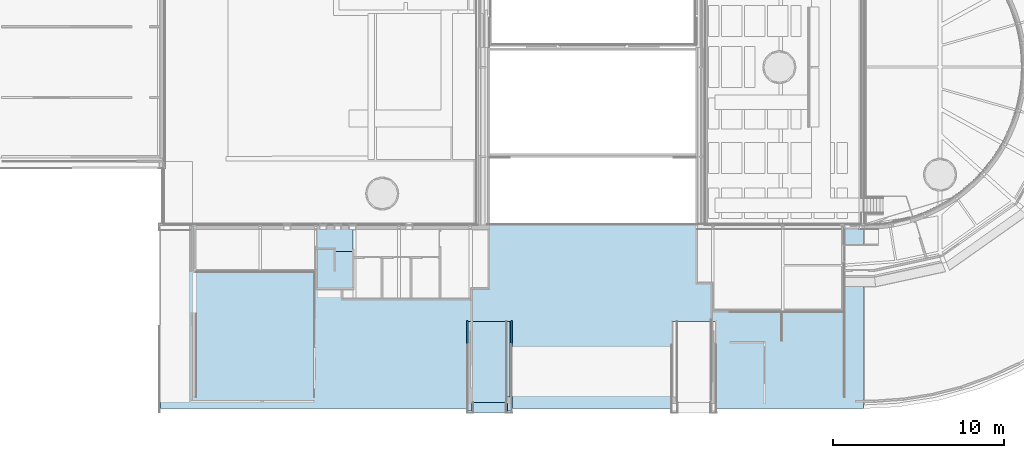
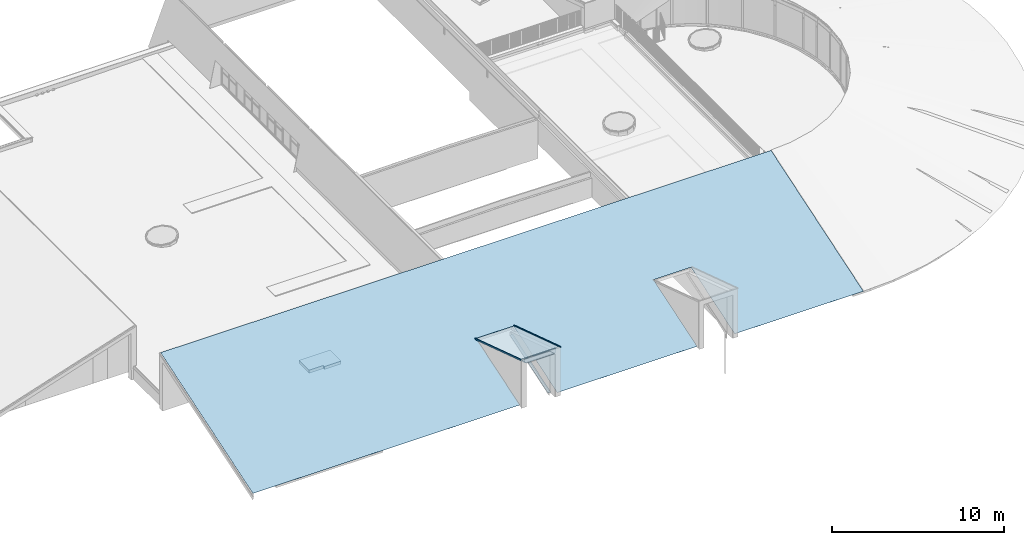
# One storey, part 10 of 66: 8 slabs, 7 elements without a shape of their own.
"""IFC2X3 building model written with IfcOpenShell, lengths in millimetres."""

import ifcopenshell
import ifcopenshell.guid

model = None  # the IFC model being written
_history = None  # IfcOwnerHistory: only IFC2X3 demands one
_inside = {}  # id of a spatial element -> (the spatial element, [elements in it])
_under = {}  # id of a project, library or spatial element -> (it, [spatial elements below it])
_declared = {}  # id of a project -> (the project, [libraries it declares])
_typed = {}  # id of a type object -> (the type object, [elements of that type])
_made_of = {}  # id of a material, layer set ... -> (it, [elements and type objects made of it])


def new_model(schema):
    """Start an empty IFC model of exactly this schema.

    Asked for "IFC4X3", IfcOpenShell would pick the latest addendum, in which some entities
    have other attributes; the version numbers below select the first issue.
    IFC2X3 requires an IfcOwnerHistory on every rooted entity: one is made here for all.
    """
    global model, _history
    if schema == "IFC4X3":
        model = ifcopenshell.file(schema_version=(4, 3, 0, 0))
    else:
        model = ifcopenshell.file(schema=schema)
    _inside.clear()
    _under.clear()
    _declared.clear()
    _typed.clear()
    _made_of.clear()
    _history = None
    if model.schema == "IFC2X3":
        org = make("IfcOrganization", Name="unknown")
        user = make(
            "IfcPersonAndOrganization",
            ThePerson=make("IfcPerson", FamilyName="unknown"),
            TheOrganization=org,
        )
        app = make(
            "IfcApplication",
            ApplicationDeveloper=org,
            Version="unknown",
            ApplicationFullName="unknown",
            ApplicationIdentifier="unknown",
        )
        _history = make(
            "IfcOwnerHistory",
            OwningUser=user,
            OwningApplication=app,
            ChangeAction="ADDED",
            CreationDate=0,
        )
    return model


def make(cls, **values):
    """One entity of the class cls with the attributes given. An attribute that is None is left unset."""
    return model.create_entity(
        cls, **{name: value for name, value in values.items() if value is not None}
    )


def entity(cls, *values):
    """Any entity or typed value of the class cls, its attributes in the order of the schema. None: left unset."""
    e = model.create_entity(cls)
    for i, value in enumerate(values):
        if value is not None:
            e[i] = value
    return e


def rooted(cls, **values):
    """An entity with a GlobalId (a new one), such as an element, a storey or a relation."""
    return make(cls, GlobalId=ifcopenshell.guid.new(), OwnerHistory=_history, **values)


def si_unit(unit_type, name, prefix=None):
    """IfcSIUnit, for example si_unit("LENGTHUNIT", "METRE", prefix="MILLI")."""
    return make("IfcSIUnit", UnitType=unit_type, Prefix=prefix, Name=name)


def converted_unit(unit_type, name, factor, base, dimensions=None, offset=None):
    """IfcConversionBasedUnit, such as the inch: factor (a typed value) times the base unit."""
    return make(
        "IfcConversionBasedUnit"
        if offset is None
        else "IfcConversionBasedUnitWithOffset",
        ConversionOffset=offset,
        Dimensions=None
        if dimensions is None
        else entity("IfcDimensionalExponents", *dimensions),
        UnitType=unit_type,
        Name=name,
        ConversionFactor=make(
            "IfcMeasureWithUnit", ValueComponent=factor, UnitComponent=base
        ),
    )


def derived_unit(unit_type, elements):
    """IfcDerivedUnit: a product of units, each with its exponent."""
    return make(
        "IfcDerivedUnit",
        Elements=[
            make("IfcDerivedUnitElement", Unit=unit, Exponent=power)
            for unit, power in elements
        ],
        UnitType=unit_type,
    )


def assignment(units):
    """IfcUnitAssignment: the units of a project."""
    return None if units is None else make("IfcUnitAssignment", Units=units)


def point(xyz):
    """IfcCartesianPoint."""
    return None if xyz is None else make("IfcCartesianPoint", Coordinates=xyz)


def direction(xyz):
    """IfcDirection."""
    return None if xyz is None else make("IfcDirection", DirectionRatios=xyz)


def frame(location, z_axis=None, x_axis=None):
    """IfcAxis2Placement3D, a coordinate frame: its origin and axes. An axis left out is left unset."""
    return make(
        "IfcAxis2Placement3D",
        Location=point(location),
        Axis=direction(z_axis),
        RefDirection=direction(x_axis),
    )


def frame_2d(location, x_axis=None):
    """IfcAxis2Placement2D, a coordinate frame in the plane: its origin and x axis."""
    return make(
        "IfcAxis2Placement2D", Location=point(location), RefDirection=direction(x_axis)
    )


def origin():
    """The frame at (0, 0, 0) with its axes left unset."""
    return frame((0.0, 0.0, 0.0))


def origin_2d_with_axis():
    """The frame at (0, 0) in the plane with the x axis (1, 0) written out."""
    return frame_2d((0.0, 0.0), x_axis=(1.0, 0.0))


def place(relative_to, where):
    """IfcLocalPlacement: puts the frame where relative to a parent placement (None: the world)."""
    return make(
        "IfcLocalPlacement", PlacementRelTo=relative_to, RelativePlacement=where
    )


def context(
    kind, dimensions, precision=None, world=None, true_north=None, identifier=None
):
    """IfcGeometricRepresentationContext, for example the 3D "Model" context."""
    return make(
        "IfcGeometricRepresentationContext",
        ContextIdentifier=identifier,
        ContextType=kind,
        CoordinateSpaceDimension=dimensions,
        Precision=precision,
        WorldCoordinateSystem=world,
        TrueNorth=true_north,
    )


def subcontext(parent, identifier, kind, view, scale=None):
    """IfcGeometricRepresentationSubContext, for example "Body" below "Model"."""
    return make(
        "IfcGeometricRepresentationSubContext",
        ContextIdentifier=identifier,
        ContextType=kind,
        ParentContext=parent,
        TargetScale=scale,
        TargetView=view,
    )


def project(units=None, contexts=None):
    """IfcProject with its units and contexts."""
    return rooted(
        "IfcProject",
        Name="project",
        RepresentationContexts=contexts,
        UnitsInContext=assignment(units),
    )


def spatial(cls, under=None, at=None, **own):
    """A site, building, storey or space (cls), placed at a placement, below another one or the project."""
    s = rooted(cls, ObjectPlacement=at, **own)
    if under is not None:
        _under.setdefault(under.id(), (under, []))[1].append(s)
    return s


def polyline(points):
    """IfcPolyline through the points."""
    return make("IfcPolyline", Points=[point(p) for p in points])


def circle_curve(where, radius):
    """IfcCircle in the frame where."""
    return make("IfcCircle", Position=where, Radius=radius)


def parameter(value):
    """IfcParameterValue: where a trimmed curve begins or ends, as a parameter of its basis curve."""
    return model.create_entity("IfcParameterValue", value)


def trimmed(basis, trim1, trim2, sense, master):
    """IfcTrimmedCurve: the piece of a basis curve between two trims."""
    return make(
        "IfcTrimmedCurve",
        BasisCurve=basis,
        Trim1=trim1,
        Trim2=trim2,
        SenseAgreement=sense,
        MasterRepresentation=master,
    )


def segment(curve, same_sense, transition):
    """IfcCompositeCurveSegment."""
    return make(
        "IfcCompositeCurveSegment",
        Transition=transition,
        SameSense=same_sense,
        ParentCurve=curve,
    )


def composite_curve(segments, self_intersect=None):
    """IfcCompositeCurve: segments joined end to end."""
    return make("IfcCompositeCurve", Segments=segments, SelfIntersect=self_intersect)


def profile(cls, at=None, kind="AREA", **sizes):
    """A parametric profile (cls). Its sizes go by their IFC names, for example OverallWidth=200.0."""
    return make(cls, ProfileType=kind, Position=at, **sizes)


def rectangle(**sizes):
    """IfcRectangleProfileDef."""
    return profile("IfcRectangleProfileDef", **sizes)


def outline(outer, holes=None, kind="AREA"):
    """IfcArbitraryClosedProfileDef: a profile drawn as a closed curve; with holes, ...WithVoids."""
    if holes is None:
        return make("IfcArbitraryClosedProfileDef", ProfileType=kind, OuterCurve=outer)
    return make(
        "IfcArbitraryProfileDefWithVoids",
        ProfileType=kind,
        OuterCurve=outer,
        InnerCurves=holes,
    )


def extrude(swept, where, along, depth):
    """IfcExtrudedAreaSolid: the profile swept, set in the frame where, extruded along a direction by depth."""
    return make(
        "IfcExtrudedAreaSolid",
        SweptArea=swept,
        Position=where,
        ExtrudedDirection=direction(along),
        Depth=depth,
    )


def shape(context_of_items, identifier, shape_type, items):
    """IfcShapeRepresentation: the items that make up one representation, for example the "Body"."""
    return make(
        "IfcShapeRepresentation",
        ContextOfItems=context_of_items,
        RepresentationIdentifier=identifier,
        RepresentationType=shape_type,
        Items=items,
    )


def material(Name=None, Category=None):
    """IfcMaterial."""
    return make("IfcMaterial", Name=Name, Category=Category)


def material_list(materials):
    """IfcMaterialList."""
    return make("IfcMaterialList", Materials=materials)


def layer(
    of_material, thickness, ventilated=None, Name=None, Category=None, Priority=None
):
    """IfcMaterialLayer: one layer of a wall or slab, of a material (None: an air gap)."""
    return make(
        "IfcMaterialLayer",
        Material=of_material,
        LayerThickness=thickness,
        IsVentilated=ventilated,
        Name=Name,
        Category=Category,
        Priority=Priority,
    )


def layer_set(layers, Name=None):
    """IfcMaterialLayerSet."""
    return make("IfcMaterialLayerSet", MaterialLayers=layers, LayerSetName=Name)


def layer_usage(for_layer_set, set_direction, sense, offset, extent=None):
    """IfcMaterialLayerSetUsage: how a layer set lies in its element."""
    return make(
        "IfcMaterialLayerSetUsage",
        ForLayerSet=for_layer_set,
        LayerSetDirection=set_direction,
        DirectionSense=sense,
        OffsetFromReferenceLine=offset,
        ReferenceExtent=extent,
    )


def made_of(thing, what):
    """Note that an element or type object is made of a material, layer set ...; save() writes the relation."""
    if what is not None:
        _made_of.setdefault(what.id(), (what, []))[1].append(thing)
    return thing


def type_object(cls, material=None, **own):
    """A type object (cls), such as IfcWallType, which elements share."""
    return made_of(rooted(cls, **own), material)


def element(
    cls,
    number,
    at=None,
    inside=None,
    cuts=None,
    type_object=None,
    material=None,
    context=None,
    identifier="Body",
    shape_type=None,
    held_by="IfcProductDefinitionShape",
    body=None,
    shapes=None,
    **own,
):
    """One element of the class cls, such as IfcWall. Its Tag is "e" and its number.

    at: its placement. inside: the storey or other place that contains it. cuts: it is an
    opening in that element (IfcRelVoidsElement). A single representation is given by context,
    identifier, shape_type and body (its items); several are given by shapes. held_by: the class
    of the entity that holds the representations. save() writes the other relations.
    """
    e = rooted(cls, Tag="e%d" % number, ObjectPlacement=at, **own)
    if body is not None:
        shapes = [shape(context, identifier, shape_type, body)]
    if shapes is not None:
        e.Representation = make(held_by, Representations=shapes)
    if inside is not None:
        _inside.setdefault(inside.id(), (inside, []))[1].append(e)
    if cuts is not None:
        rooted(
            "IfcRelVoidsElement", RelatingBuildingElement=cuts, RelatedOpeningElement=e
        )
    if type_object is not None:
        _typed.setdefault(type_object.id(), (type_object, []))[1].append(e)
    return made_of(e, material)


def aggregate(whole, parts):
    """IfcRelAggregates: a whole, such as a stair, and the parts it consists of."""
    return rooted("IfcRelAggregates", RelatingObject=whole, RelatedObjects=parts)


def save(model, path):
    """Write the relations noted so far, then the file.

    IfcRelAggregates (storeys below a building ...), IfcRelContainedInSpatialStructure (elements
    in a storey), IfcRelDefinesByType, IfcRelAssociatesMaterial and IfcRelDeclares: one each for
    every whole, place, type object, material and project.
    """
    for whole, parts in _under.values():
        aggregate(whole, parts)
    for where, things in _inside.values():
        rooted(
            "IfcRelContainedInSpatialStructure",
            RelatedElements=things,
            RelatingStructure=where,
        )
    for kind, things in _typed.values():
        rooted("IfcRelDefinesByType", RelatedObjects=things, RelatingType=kind)
    for what, things in _made_of.values():
        rooted("IfcRelAssociatesMaterial", RelatedObjects=things, RelatingMaterial=what)
    for by, libraries in _declared.values():
        rooted("IfcRelDeclares", RelatingContext=by, RelatedDefinitions=libraries)
    model.write(path)


model = new_model("IFC2X3")

# Units and contexts
model_context = context("Model", 3, precision=0.01, world=origin(), true_north=direction((6.12303176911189e-17, 1.0)))
body_context = subcontext(model_context, "Body", "Model", "MODEL_VIEW")
ifc_project = project(units=[si_unit("LENGTHUNIT", "METRE", prefix="MILLI"), si_unit("AREAUNIT", "SQUARE_METRE"), si_unit("VOLUMEUNIT", "CUBIC_METRE"), converted_unit("PLANEANGLEUNIT", "DEGREE", entity("IfcRatioMeasure", 0.0174532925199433), si_unit("PLANEANGLEUNIT", "RADIAN"), dimensions=[0, 0, 0, 0, 0, 0, 0]), si_unit("MASSUNIT", "GRAM", prefix="KILO"), derived_unit("MASSDENSITYUNIT", [(si_unit("MASSUNIT", "GRAM", prefix="KILO"), 1), (si_unit("LENGTHUNIT", "METRE"), -3)]), derived_unit("MOMENTOFINERTIAUNIT", [(si_unit("LENGTHUNIT", "METRE"), 4)]), si_unit("TIMEUNIT", "SECOND"), si_unit("FREQUENCYUNIT", "HERTZ"), si_unit("THERMODYNAMICTEMPERATUREUNIT", "DEGREE_CELSIUS"), derived_unit("THERMALTRANSMITTANCEUNIT", [(si_unit("MASSUNIT", "GRAM", prefix="KILO"), 1), (si_unit("THERMODYNAMICTEMPERATUREUNIT", "KELVIN"), -1), (si_unit("TIMEUNIT", "SECOND"), -3)]), derived_unit("VOLUMETRICFLOWRATEUNIT", [(si_unit("LENGTHUNIT", "METRE"), 3), (si_unit("TIMEUNIT", "SECOND"), -1)]), si_unit("ELECTRICCURRENTUNIT", "AMPERE"), si_unit("ELECTRICVOLTAGEUNIT", "VOLT"), si_unit("POWERUNIT", "WATT"), si_unit("FORCEUNIT", "NEWTON", prefix="KILO"), si_unit("ILLUMINANCEUNIT", "LUX"), si_unit("LUMINOUSFLUXUNIT", "LUMEN"), si_unit("LUMINOUSINTENSITYUNIT", "CANDELA"), derived_unit("USERDEFINED", [(si_unit("MASSUNIT", "GRAM", prefix="KILO"), -1), (si_unit("LENGTHUNIT", "METRE"), -2), (si_unit("TIMEUNIT", "SECOND"), 3), (si_unit("LUMINOUSFLUXUNIT", "LUMEN"), 1)]), derived_unit("LINEARVELOCITYUNIT", [(si_unit("LENGTHUNIT", "METRE"), 1), (si_unit("TIMEUNIT", "SECOND"), -1)]), si_unit("PRESSUREUNIT", "PASCAL"), derived_unit("USERDEFINED", [(si_unit("LENGTHUNIT", "METRE"), -2), (si_unit("MASSUNIT", "GRAM", prefix="KILO"), 1), (si_unit("TIMEUNIT", "SECOND"), -2)]), derived_unit("LINEARFORCEUNIT", [(si_unit("MASSUNIT", "GRAM", prefix="KILO"), 1), (si_unit("LENGTHUNIT", "METRE"), 1), (si_unit("TIMEUNIT", "SECOND"), -2), (si_unit("LENGTHUNIT", "METRE"), -1)]), derived_unit("PLANARFORCEUNIT", [(si_unit("MASSUNIT", "GRAM", prefix="KILO"), 1), (si_unit("LENGTHUNIT", "METRE"), 1), (si_unit("TIMEUNIT", "SECOND"), -2), (si_unit("LENGTHUNIT", "METRE"), -2)])], contexts=[model_context])

# Site, building, storey
site_placement = place(None, origin())
site = spatial("IfcSite", under=ifc_project, at=site_placement, Name="Default", CompositionType="ELEMENT")
building_placement = place(site_placement, origin())
building = spatial("IfcBuilding", under=site, at=building_placement, Name="-", CompositionType="ELEMENT")
storey_placement = place(building_placement, frame((0.0, 0.0, 3070.0)))
storey = spatial("IfcBuildingStorey", under=building, at=storey_placement, Name="01 eerste verdieping", CompositionType="ELEMENT", Elevation=3070.00000000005)

# Roof, slab
roof_1_placement = place(storey_placement, frame((27709.8462249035, -516.516507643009, 1398.62937019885)))
roof_1 = element("IfcRoof", 1, at=roof_1_placement, inside=storey, Name="Basic Roof:27_Dakelement Rc 6,0m²K/W, aftimmerpakket", ObjectType="Basic Roof:27_Dakelement Rc 6,0m²K/W, aftimmerpakket", ShapeType="NOTDEFINED")
slab_type_1 = type_object("IfcSlabType", Name="Basic Roof:27_Dakelement Rc 6,0m²K/W, aftimmerpakket", PredefinedType="ROOF")
slab_1_placement = place(roof_1_placement, origin())
slab_1 = element("IfcSlab", 2, at=slab_1_placement, type_object=slab_type_1, Name="Basic Roof:27_Dakelement Rc 6,0m²K/W, aftimmerpakket", ObjectType="Basic Roof:27_Dakelement Rc 6,0m²K/W, aftimmerpakket", PredefinedType="NOTDEFINED", context=body_context, shape_type="SweptSolid", body=[
    extrude(rectangle(XDim=2109.65139056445, YDim=5564.20616391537, at=origin_2d_with_axis()), frame((1054.82569528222, 2645.93726510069, 859.71713242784), z_axis=(0.0, 0.309016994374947, 0.951056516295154), x_axis=(1.0, 0.0, 0.0)), (0.0, -0.309016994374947, 0.951056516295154), 314.387205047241),
])
aggregate(roof_1, [slab_1])

# Covering, slab
covering_1_placement = place(storey_placement, frame((9572.49999999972, -305.229644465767, 73.1515311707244)))
covering_1 = element("IfcCovering", 3, at=covering_1_placement, inside=storey, Name="Basic Roof:NLRS_47_Felsdak zink", ObjectType="Basic Roof:NLRS_47_Felsdak zink", PredefinedType="NOTDEFINED")
slab_type_2 = type_object("IfcSlabType", Name="Basic Roof:NLRS_47_Felsdak zink", PredefinedType="ROOF")
slab_2_placement = place(covering_1_placement, origin())
slab_2 = element("IfcSlab", 4, at=slab_2_placement, type_object=slab_type_2, Name="Basic Roof:NLRS_47_Felsdak zink", ObjectType="Basic Roof:NLRS_47_Felsdak zink", PredefinedType="NOTDEFINED", context=body_context, shape_type="SweptSolid", body=[
    extrude(outline(polyline([(20506.4229570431, 5645.73509767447), (-20506.4229570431, 5645.73509767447), (-20506.4229570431, -5645.73509767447), (-2553.57673213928, -5645.73509767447), (-2553.57673213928, -303.194601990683), (-64.5767321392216, -303.194601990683), (-64.5767321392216, -5645.73509767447), (9343.37572061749, -5645.73509767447), (9343.37572061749, -303.194601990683), (11857.8693402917, -303.194601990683), (11857.8693402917, -5645.73509767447), (20506.4229570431, -5645.73509767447), (20506.4229570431, 5645.73509767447)])), frame((20506.4229570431, 5369.41315391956, 1744.62809092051), z_axis=(0.0, -0.309016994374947, 0.951056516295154), x_axis=(1.0, 0.0, 0.0)), (0.0, 0.309016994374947, 0.951056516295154), 1.05146222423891),
])
aggregate(covering_1, [slab_2])

covering_2_placement = place(storey_placement, frame((27491.0667061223, -452.772407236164, 1723.85895276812)))
covering_2 = element("IfcCovering", 5, at=covering_2_placement, inside=storey, Name="Basic Roof:NLRS_47_Felsdak zink", ObjectType="Basic Roof:NLRS_47_Felsdak zink", PredefinedType="NOTDEFINED")
slab_type_3 = type_object("IfcSlabType", Name="Basic Roof:NLRS_47_Felsdak zink", PredefinedType="ROOF")
slab_3_placement = place(covering_2_placement, origin())
slab_3 = element("IfcSlab", 6, at=slab_3_placement, type_object=slab_type_3, Name="Basic Roof:NLRS_47_Felsdak zink", ObjectType="Basic Roof:NLRS_47_Felsdak zink", PredefinedType="NOTDEFINED", context=body_context, shape_type="SweptSolid", body=[
    extrude(rectangle(XDim=2547.55903756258, YDim=5496.94198376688, at=frame_2d((0.0, -6.82121026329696e-13), x_axis=(-1.0, 0.0))), frame((1273.7795187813, 2613.95124667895, 849.32424503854), z_axis=(0.0, 0.309016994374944, 0.951056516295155), x_axis=(1.0, 0.0, 0.0)), (0.0, -0.309016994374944, 0.951056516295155), 1.05146222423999),
])
aggregate(covering_2, [slab_3])

# Slab
ifc_material_1 = material(Name="NLRS_i2_hout naaldhout vuren_gen")
ifc_layer = layer(ifc_material_1, 221.0)
ifc_layer_set = layer_set([ifc_layer], Name="Floor:NLRS_23_FL_Houten balk laag 221mm")
ifc_layer_usage = layer_usage(ifc_layer_set, "AXIS3", "POSITIVE", 0.0)
slab_type_4 = type_object("IfcSlabType", Name="Floor:NLRS_23_FL_Houten balk laag 221mm", PredefinedType="FLOOR", material=ifc_layer_set)
slab_4_placement = place(storey_placement, origin())
element("IfcSlab", 7, at=slab_4_placement, inside=storey, type_object=slab_type_4, material=ifc_layer_usage, Name="Floor:NLRS_23_FL_Houten balk laag 221mm", ObjectType="Floor:NLRS_23_FL_Houten balk laag 221mm", PredefinedType="FLOOR", context=body_context, shape_type="SweptSolid", body=[
    extrude(outline(polyline([(-347.706899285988, -1020.16666666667), (819.051316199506, -1020.16666666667), (819.051316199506, 1072.33333333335), (-471.344416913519, 1072.33333333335), (-471.344416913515, -52.1666666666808), (-347.706899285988, -52.1666666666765), (-347.706899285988, -1020.16666666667)])), frame((19732.8615010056, 9344.57277920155, -18.0), z_axis=(0.0, 0.0, -1.0), x_axis=(0.0, 1.0, 0.0)), (0.0, 0.0, 1.0), 221.0),
])

# Roof, slab
ifc_material_2 = material(Name="AL_Aluminium")
ifc_material_3 = material(Name="AL_31_Naaldhout (vuren)")
ifc_material_4 = material(Name="h7_zink zwart")
ifc_material_list_1 = material_list([ifc_material_2, ifc_material_3, ifc_material_4])
roof_2_placement = place(storey_placement, origin())
roof_2 = element("IfcRoof", 8, at=roof_2_placement, inside=storey, material=ifc_material_list_1, Name="Dakrand zijkant dak4:Dakrand zijkant dak", ObjectType="Dakrand zijkant dak4:Dakrand zijkant dak", ShapeType="NOTDEFINED")
ifc_material_list_2 = material_list([ifc_material_2, ifc_material_3, ifc_material_4])
slab_type_5 = type_object("IfcSlabType", Name="Dakrand zijkant dak4:Dakrand zijkant dak", PredefinedType="ROOF")
slab_5_placement = place(storey_placement, origin())
slab_5 = element("IfcSlab", 9, at=slab_5_placement, type_object=slab_type_5, material=ifc_material_list_2, Name="Dakrand zijkant dak4:Dakrand zijkant dak:1", ObjectType="Dakrand zijkant dak4:Dakrand zijkant dak", PredefinedType="ROOF", context=body_context, shape_type="SweptSolid", body=[
    extrude(outline(composite_curve([segment(polyline([(36.5513412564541, -17.7650850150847), (-36.551341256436, -17.7650850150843)]), True, "CONTINUOUS"), segment(trimmed(circle_curve(frame_2d((-36.551341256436, -15.7650850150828), x_axis=(-1.0, 0.0)), 1.99999999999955), [parameter(359.999999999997)], [parameter(90.0000000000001)], True, "PARAMETER"), False, "CONTINUOUS"), segment(polyline([(-38.551341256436, -15.7650850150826), (-38.5513412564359, 68.3434682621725)]), True, "CONTINUOUS"), segment(polyline([(-38.5513412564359, 68.3434682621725), (-39.5513412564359, 68.3434682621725)]), True, "CONTINUOUS"), segment(polyline([(-39.5513412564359, 68.3434682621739), (-39.551341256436, -15.7650850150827)]), True, "CONTINUOUS"), segment(trimmed(circle_curve(frame_2d((-36.551341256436, -15.7650850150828), x_axis=(-1.0, 0.0)), 2.99999999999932), [parameter(359.999999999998)], [parameter(90.0000000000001)], True, "PARAMETER"), True, "CONTINUOUS"), segment(polyline([(-36.551341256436, -18.7650850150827), (36.5513412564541, -18.7650850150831)]), True, "CONTINUOUS"), segment(trimmed(circle_curve(frame_2d((36.5513412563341, -15.7650850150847), x_axis=(1.0, 0.0)), 2.99999999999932), [parameter(270.000000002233)], [parameter(359.999999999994)], True, "PARAMETER"), True, "CONTINUOUS"), segment(polyline([(39.5513412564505, -15.765085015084), (39.5513412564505, -0.283128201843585)]), True, "CONTINUOUS"), segment(polyline([(39.5513412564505, -0.283128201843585), (38.5513412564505, -0.283128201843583)]), True, "CONTINUOUS"), segment(polyline([(38.5513412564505, -0.283128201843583), (38.5513412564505, -15.765085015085)]), True, "CONTINUOUS"), segment(trimmed(circle_curve(frame_2d((36.5513412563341, -15.7650850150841), x_axis=(1.0, 0.0)), 1.99999999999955), [parameter(270.00000000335)], [parameter(359.999999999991)], True, "PARAMETER"), False, "CONTINUOUS")], self_intersect=False)), frame((30067.0455243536, -291.306566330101, 3381.85709956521), z_axis=(0.0, -0.951056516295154, 0.309016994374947), x_axis=(-1.0, 0.0, 0.0)), (0.0, 0.0, -1.0), 5380.0),
    extrude(rectangle(XDim=37.9999999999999, YDim=5405.0, at=frame_2d((4.54747350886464e-13, -2.02504679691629e-13), x_axis=(0.0, 1.0))), frame((30038.6257436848, 2248.32259370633, 2554.33163566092), z_axis=(1.0, 0.0, 0.0), x_axis=(0.0, -0.951056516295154, 0.309016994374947)), (0.0, 0.0, 1.0), 58.0000000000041),
    extrude(outline(composite_curve([segment(polyline([(-63.3639587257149, -41.6884154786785), (-55.4151697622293, -28.9676940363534)]), True, "CONTINUOUS"), segment(polyline([(-55.4151697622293, -28.9676940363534), (-56.2632178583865, -28.4377747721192)]), True, "CONTINUOUS"), segment(polyline([(-56.2632178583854, -28.4377747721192), (-65.1680064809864, -42.6884154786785)]), True, "CONTINUOUS"), segment(polyline([(-65.168006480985, -42.6884154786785), (25.5217171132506, -42.6884154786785)]), True, "CONTINUOUS"), segment(trimmed(circle_curve(frame_2d((25.5217171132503, -39.6884154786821), x_axis=(0.0, -1.0)), 2.99999999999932), [parameter(5.08888749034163e-14)], [parameter(90.0000000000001)], True, "PARAMETER"), True, "CONTINUOUS"), segment(polyline([(28.5217171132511, -39.6884154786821), (28.5217171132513, 37.414267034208)]), True, "CONTINUOUS"), segment(trimmed(circle_curve(frame_2d((25.5217171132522, 37.4142670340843), x_axis=(0.0, 1.0)), 2.99999999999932), [parameter(270.000000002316)], [parameter(359.999999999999)], True, "PARAMETER"), True, "CONTINUOUS"), segment(polyline([(25.5217171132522, 40.414267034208), (3.10750355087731, 40.414267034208)]), True, "CONTINUOUS"), segment(polyline([(3.10750355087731, 40.414267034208), (8.3501442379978, 35.1716263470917)]), True, "CONTINUOUS"), segment(polyline([(8.35014423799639, 35.1716263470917), (9.05725101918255, 35.8787331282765)]), True, "CONTINUOUS"), segment(polyline([(9.05725101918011, 35.8787331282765), (5.52171711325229, 39.414267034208)]), True, "CONTINUOUS"), segment(polyline([(5.52171711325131, 39.414267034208), (25.5217171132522, 39.414267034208)]), True, "CONTINUOUS"), segment(trimmed(circle_curve(frame_2d((25.5217171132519, 37.4142670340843), x_axis=(0.0, 1.0)), 1.99999999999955), [parameter(270.000000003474)], [parameter(359.999999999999)], True, "PARAMETER"), False, "CONTINUOUS"), segment(polyline([(27.5217171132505, 37.414267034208), (27.5217171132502, -39.6884154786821)]), True, "CONTINUOUS"), segment(trimmed(circle_curve(frame_2d((25.5217171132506, -39.6884154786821), x_axis=(0.0, -1.0)), 1.99999999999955), [parameter(5.08888749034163e-14)], [parameter(90.0000000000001)], True, "PARAMETER"), False, "CONTINUOUS"), segment(polyline([(25.5217171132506, -41.6884154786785), (-63.3639587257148, -41.6884154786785)]), True, "CONTINUOUS")], self_intersect=False)), frame((30065.9084501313, -558.292923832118, 3460.45042010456), z_axis=(0.0, -0.951056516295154, 0.309016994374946), x_axis=(0.0, 0.309016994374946, 0.951056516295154)), (0.0, 0.0, -1.0), 5655.0),
])
aggregate(roof_2, [slab_5])

ifc_material_list_3 = material_list([ifc_material_2, ifc_material_3, ifc_material_4])
roof_3_placement = place(storey_placement, origin())
roof_3 = element("IfcRoof", 10, at=roof_3_placement, inside=storey, material=ifc_material_list_3, Name="Dakrand zijkant dak5:Dakrand zijkant dak", ObjectType="Dakrand zijkant dak5:Dakrand zijkant dak", ShapeType="NOTDEFINED")
ifc_material_list_4 = material_list([ifc_material_2, ifc_material_3, ifc_material_4])
slab_type_6 = type_object("IfcSlabType", Name="Dakrand zijkant dak5:Dakrand zijkant dak", PredefinedType="ROOF")
slab_6_placement = place(storey_placement, origin())
slab_6 = element("IfcSlab", 11, at=slab_6_placement, type_object=slab_type_6, material=ifc_material_list_4, Name="Dakrand zijkant dak5:Dakrand zijkant dak:1", ObjectType="Dakrand zijkant dak5:Dakrand zijkant dak", PredefinedType="ROOF", context=body_context, shape_type="SweptSolid", body=[
    extrude(outline(composite_curve([segment(trimmed(circle_curve(frame_2d((-36.5513412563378, -15.7650850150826), x_axis=(-1.0, 0.0)), 1.99999999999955), [parameter(359.999999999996)], [parameter(89.9999999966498)], True, "PARAMETER"), False, "CONTINUOUS"), segment(polyline([(-38.5513412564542, -15.765085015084), (-38.5513412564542, -0.283128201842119)]), True, "CONTINUOUS"), segment(polyline([(-38.5513412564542, -0.283128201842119), (-39.5513412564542, -0.283128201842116)]), True, "CONTINUOUS"), segment(polyline([(-39.5513412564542, -0.283128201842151), (-39.5513412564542, -15.7650850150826)]), True, "CONTINUOUS"), segment(trimmed(circle_curve(frame_2d((-36.5513412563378, -15.7650850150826), x_axis=(-1.0, 0.0)), 2.99999999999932), [parameter(359.999999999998)], [parameter(89.9999999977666)], True, "PARAMETER"), True, "CONTINUOUS"), segment(polyline([(-36.5513412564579, -18.7650850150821), (36.5513412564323, -18.7650850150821)]), True, "CONTINUOUS"), segment(trimmed(circle_curve(frame_2d((36.5513412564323, -15.7650850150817), x_axis=(1.0, 0.0)), 2.99999999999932), [parameter(270.0)], [parameter(2.34088824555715e-12)], True, "PARAMETER"), True, "CONTINUOUS"), segment(polyline([(39.5513412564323, -15.7650850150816), (39.5513412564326, 68.3434682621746)]), True, "CONTINUOUS"), segment(polyline([(39.5513412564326, 68.3434682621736), (38.5513412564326, 68.3434682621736)]), True, "CONTINUOUS"), segment(polyline([(38.5513412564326, 68.3434682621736), (38.5513412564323, -15.7650850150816)]), True, "CONTINUOUS"), segment(trimmed(circle_curve(frame_2d((36.5513412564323, -15.7650850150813), x_axis=(1.0, 0.0)), 1.99999999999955), [parameter(270.0)], [parameter(3.51133236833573e-12)], True, "PARAMETER"), False, "CONTINUOUS"), segment(polyline([(36.5513412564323, -17.7650850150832), (-36.5513412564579, -17.7650850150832)]), True, "CONTINUOUS")], self_intersect=False)), frame((27462.6469254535, -291.306566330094, 3381.85709956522), z_axis=(0.0, -0.951056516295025, 0.309016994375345), x_axis=(-1.0, 0.0, 0.0)), (0.0, 0.0, -1.0), 5380.0),
    extrude(rectangle(XDim=38.0000000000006, YDim=5385.00000000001, at=frame_2d((9.09494701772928e-13, -3.37507799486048e-13), x_axis=(0.0, 1.0))), frame((27433.0667061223, 2263.96719450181, 2549.24839672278), z_axis=(1.0, 0.0, 0.0), x_axis=(0.0, -0.951056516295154, 0.309016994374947)), (0.0, 0.0, 1.0), 58.0000000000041),
    extrude(outline(composite_curve([segment(polyline([(-68.9315637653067, 31.6441901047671), (-53.9315637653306, 31.6441901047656)]), True, "CONTINUOUS"), segment(polyline([(-53.9315637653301, 31.6441901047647), (-53.9315637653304, 32.6441901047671)]), True, "CONTINUOUS"), segment(polyline([(-53.9315637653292, 32.6441901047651), (-70.735611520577, 32.6441901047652)]), True, "CONTINUOUS"), segment(polyline([(-70.735611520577, 32.6441901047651), (-22.6773799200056, -44.2650573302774)]), True, "CONTINUOUS"), segment(trimmed(circle_curve(frame_2d((-20.133235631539, -42.6752995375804), x_axis=(-0.848048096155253, -0.529919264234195)), 2.99999999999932), [parameter(359.999999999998)], [parameter(90.0000000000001)], True, "PARAMETER"), True, "CONTINUOUS"), segment(polyline([(-18.543477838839, -45.2194438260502), (46.8433052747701, -4.3612470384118)]), True, "CONTINUOUS"), segment(trimmed(circle_curve(frame_2d((45.2535474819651, -1.81710275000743), x_axis=(0.848048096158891, 0.529919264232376)), 2.99999999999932), [parameter(270.000000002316)], [parameter(359.999999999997)], True, "PARAMETER"), True, "CONTINUOUS"), segment(polyline([(47.7976917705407, -0.227344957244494), (35.9199682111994, 18.7809861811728)]), True, "CONTINUOUS"), segment(polyline([(35.9199682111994, 18.7809861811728), (34.2521330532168, 11.5567984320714)]), True, "CONTINUOUS"), segment(polyline([(34.2521330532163, 11.5567984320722), (35.2265031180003, 11.3318473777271)]), True, "CONTINUOUS"), segment(polyline([(35.2265031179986, 11.3318473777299), (36.3512583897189, 16.2036977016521)]), True, "CONTINUOUS"), segment(polyline([(36.3512583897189, 16.2036977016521), (46.9496436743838, -0.757264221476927)]), True, "CONTINUOUS"), segment(trimmed(circle_curve(frame_2d((45.2535474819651, -1.81710275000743), x_axis=(0.848048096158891, 0.529919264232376)), 1.99999999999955), [parameter(270.000000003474)], [parameter(359.999999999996)], True, "PARAMETER"), False, "CONTINUOUS"), segment(polyline([(46.3133860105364, -3.51319894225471), (-19.0733971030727, -44.371395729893)]), True, "CONTINUOUS"), segment(trimmed(circle_curve(frame_2d((-20.133235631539, -42.6752995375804), x_axis=(-0.848048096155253, -0.529919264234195)), 1.99999999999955), [parameter(359.999999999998)], [parameter(90.0000000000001)], True, "PARAMETER"), False, "CONTINUOUS"), segment(polyline([(-21.8293318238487, -43.735138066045), (-68.931563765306, 31.6441901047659)]), True, "CONTINUOUS")], self_intersect=False)), frame((27463.7839996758, -579.020452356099, 3467.18520237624), z_axis=(0.0, 0.951056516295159, -0.309016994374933), x_axis=(0.848048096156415, 0.163754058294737, 0.503983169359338)), (0.0, 0.0, 1.0), 5675.0),
])
aggregate(roof_3, [slab_6])

ifc_material_5 = material(Name="AL Houten gevelbekleding liggend")
roof_4_placement = place(storey_placement, origin())
roof_4 = element("IfcRoof", 12, at=roof_4_placement, inside=storey, material=ifc_material_5, Name="Plafond erkers mf zaal1:Plafond erkers mf zaal", ObjectType="Plafond erkers mf zaal1:Plafond erkers mf zaal", ShapeType="NOTDEFINED")
slab_type_7 = type_object("IfcSlabType", Name="Plafond erkers mf zaal1:Plafond erkers mf zaal", PredefinedType="ROOF")
slab_7_placement = place(storey_placement, origin())
slab_7 = element("IfcSlab", 13, at=slab_7_placement, type_object=slab_type_7, material=ifc_material_5, Name="Plafond erkers mf zaal1:Plafond erkers mf zaal:1", ObjectType="Plafond erkers mf zaal1:Plafond erkers mf zaal", PredefinedType="ROOF", context=body_context, shape_type="SweptSolid", body=[
    extrude(outline(polyline([(-106.108389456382, -297.443431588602), (-87.1820694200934, -297.443431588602), (106.108389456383, 297.443431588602), (87.1820694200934, 297.443431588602), (-106.108389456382, -297.443431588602)])), frame((27814.8462249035, -241.073076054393, 2996.2250042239), z_axis=(1.0, 0.0, 0.0), x_axis=(0.0, 0.0, -1.0)), (0.0, 0.0, 1.0), 1899.99999999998),
])
aggregate(roof_4, [slab_7])

# Covering, slab
covering_3_placement = place(storey_placement, frame((29777.3462249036, 370.121222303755, -283.787733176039)))
covering_3 = element("IfcCovering", 14, at=covering_3_placement, inside=storey, Name="Basic Roof:NLRS_47_multiplex betimmering", ObjectType="Basic Roof:NLRS_47_multiplex betimmering", PredefinedType="NOTDEFINED")
slab_type_8 = type_object("IfcSlabType", Name="Basic Roof:NLRS_47_multiplex betimmering", PredefinedType="ROOF")
slab_8_placement = place(covering_3_placement, origin())
slab_8 = element("IfcSlab", 15, at=slab_8_placement, type_object=slab_type_8, Name="Basic Roof:NLRS_47_multiplex betimmering", ObjectType="Basic Roof:NLRS_47_multiplex betimmering", PredefinedType="NOTDEFINED", context=body_context, shape_type="SweptSolid", body=[
    extrude(rectangle(XDim=198.493619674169, YDim=4632.21436784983, at=frame_2d((2.1600499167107e-12, -4.54747350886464e-13), x_axis=(-1.0, 0.0))), frame((99.2468098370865, 2202.74882970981, 715.716480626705), z_axis=(0.0, -0.309016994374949, 0.951056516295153), x_axis=(1.0, 0.0, 0.0)), (0.0, 0.309016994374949, 0.951056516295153), 15.7719333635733),
])
aggregate(covering_3, [slab_8])

save(model, "model.ifc")
